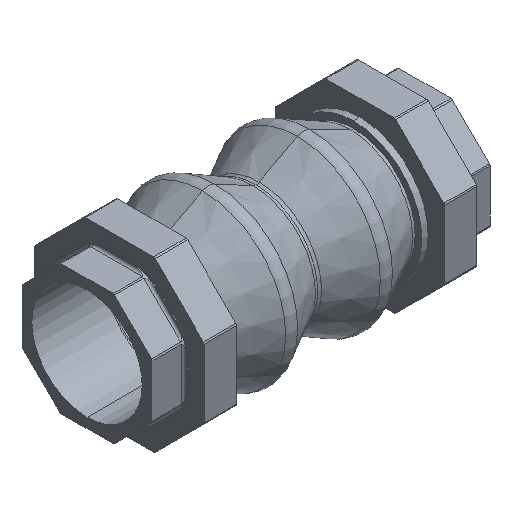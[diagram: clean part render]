
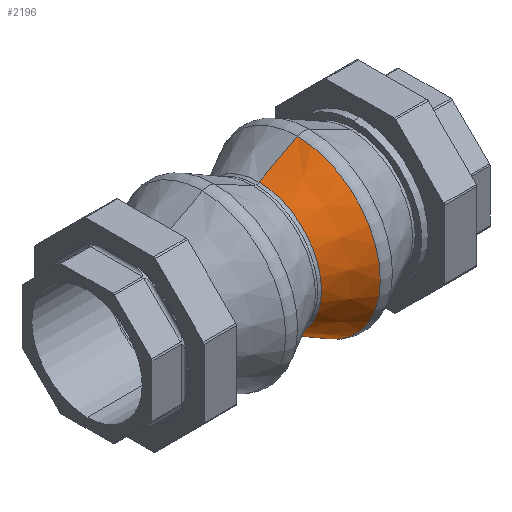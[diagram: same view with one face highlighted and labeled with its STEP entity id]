
A CAD part, isometric view. The second image highlights one B-rep face of the part: STEP entity #2196.
In plain terms, the highlighted conical face has half-angle 28.176 degrees and reference radius 63.815 mm.
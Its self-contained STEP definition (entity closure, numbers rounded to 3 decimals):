
#866 = VERTEX_POINT ( 'NONE', #4597 ) ;
#885 = VERTEX_POINT ( 'NONE', #2251 ) ;
#887 = EDGE_CURVE ( 'NONE', #890, #866, #2248, .T. ) ;
#890 = VERTEX_POINT ( 'NONE', #2226 ) ;
#895 = EDGE_CURVE ( 'NONE', #885, #890, #2232, .T. ) ;
#910 = VERTEX_POINT ( 'NONE', #2273 ) ;
#914 = EDGE_CURVE ( 'NONE', #885, #910, #2306, .T. ) ;
#2196 = ADVANCED_FACE ( 'NONE', ( #3835 ), #3836, .T. ) ;
#2226 = CARTESIAN_POINT ( 'NONE',  ( 2.361, 0., 48.057 ) ) ;
#2228 = DIRECTION ( 'NONE',  ( 0., 0., 1. ) ) ;
#2229 = DIRECTION ( 'NONE',  ( -1., 0., 0. ) ) ;
#2230 = CARTESIAN_POINT ( 'NONE',  ( 2.361, 0., 0. ) ) ;
#2231 = AXIS2_PLACEMENT_3D ( 'NONE', #2230, #2229, #2228 ) ;
#2232 = CIRCLE ( 'NONE', #2231, 48.057 ) ;
#2245 = DIRECTION ( 'NONE',  ( 0.882, 0., 0.472 ) ) ;
#2246 = VECTOR ( 'NONE', #2245, 1000. ) ;
#2247 = CARTESIAN_POINT ( 'NONE',  ( 31.778, 0., 63.815 ) ) ;
#2248 = LINE ( 'NONE', #2247, #2246 ) ;
#2251 = CARTESIAN_POINT ( 'NONE',  ( 2.361, 0., -48.057 ) ) ;
#2273 = CARTESIAN_POINT ( 'NONE',  ( 31.778, 0., -63.815 ) ) ;
#2303 = DIRECTION ( 'NONE',  ( 0.882, 0., -0.472 ) ) ;
#2304 = VECTOR ( 'NONE', #2303, 1000. ) ;
#2305 = CARTESIAN_POINT ( 'NONE',  ( 31.778, 0., -63.815 ) ) ;
#2306 = LINE ( 'NONE', #2305, #2304 ) ;
#2431 = ORIENTED_EDGE ( 'NONE', *, *, #895, .F. ) ;
#2439 = ORIENTED_EDGE ( 'NONE', *, *, #914, .T. ) ;
#2459 = EDGE_LOOP ( 'NONE', ( #2470, #2431, #2439, #2469 ) ) ;
#2468 = EDGE_CURVE ( 'NONE', #910, #866, #3929, .T. ) ;
#2469 = ORIENTED_EDGE ( 'NONE', *, *, #2468, .T. ) ;
#2470 = ORIENTED_EDGE ( 'NONE', *, *, #887, .F. ) ;
#3835 = FACE_OUTER_BOUND ( 'NONE', #2459, .T. ) ;
#3836 = CONICAL_SURFACE ( 'NONE', #3867, 63.815, 0.492 ) ;
#3859 = DIRECTION ( 'NONE',  ( 0., 0., -1. ) ) ;
#3867 = AXIS2_PLACEMENT_3D ( 'NONE', #3872, #3870, #3859 ) ;
#3870 = DIRECTION ( 'NONE',  ( 1., 0., 0. ) ) ;
#3872 = CARTESIAN_POINT ( 'NONE',  ( 31.778, 0., 0. ) ) ;
#3922 = DIRECTION ( 'NONE',  ( 0., 0., 1. ) ) ;
#3923 = DIRECTION ( 'NONE',  ( -1., 0., 0. ) ) ;
#3924 = CARTESIAN_POINT ( 'NONE',  ( 31.778, 0., 0. ) ) ;
#3925 = AXIS2_PLACEMENT_3D ( 'NONE', #3924, #3923, #3922 ) ;
#3929 = CIRCLE ( 'NONE', #3925, 63.815 ) ;
#4597 = CARTESIAN_POINT ( 'NONE',  ( 31.778, 0., 63.815 ) ) ;
